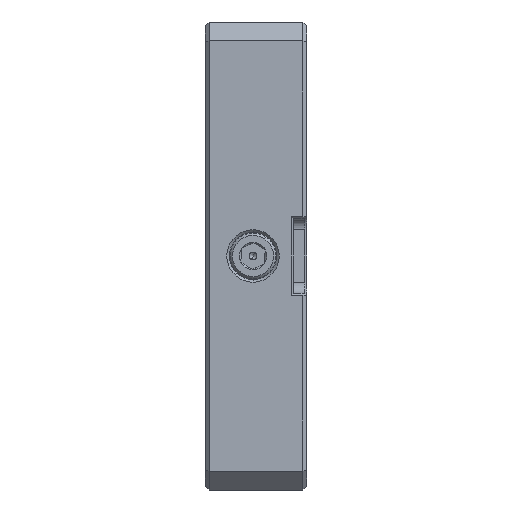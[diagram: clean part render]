
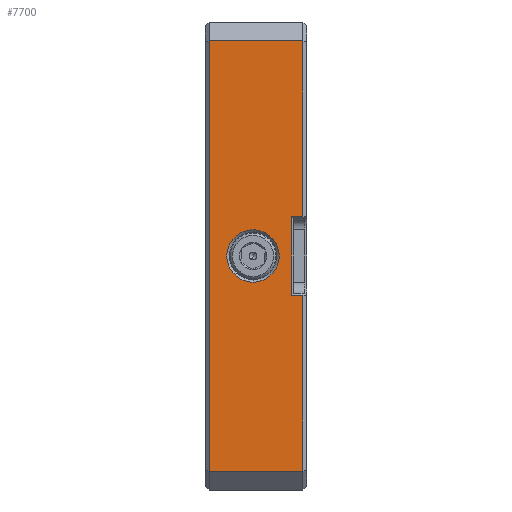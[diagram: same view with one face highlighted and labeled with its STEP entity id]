
A CAD part, left-side view. The second image highlights one B-rep face of the part: STEP entity #7700.
In plain terms, the highlighted planar face has unit normal (-1, 0, 0).
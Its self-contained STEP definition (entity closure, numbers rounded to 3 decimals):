
#897=DIRECTION('',(0.,0.,-1.));
#898=VECTOR('',#897,47.);
#899=CARTESIAN_POINT('',(-62.5,1.,57.5));
#900=LINE('',#899,#898);
#905=CARTESIAN_POINT('',(-62.5,14.3,0.));
#906=DIRECTION('',(1.,0.,0.));
#907=DIRECTION('',(0.,0.,1.));
#908=AXIS2_PLACEMENT_3D('',#905,#906,#907);
#910=CARTESIAN_POINT('',(-62.5,14.3,0.));
#911=DIRECTION('',(1.,0.,0.));
#912=DIRECTION('',(0.,0.,-1.));
#913=AXIS2_PLACEMENT_3D('',#910,#911,#912);
#915=DIRECTION('',(0.,0.,-1.));
#916=VECTOR('',#915,21.);
#917=CARTESIAN_POINT('',(-62.5,4.,10.5));
#918=LINE('',#917,#916);
#927=DIRECTION('',(0.,-1.,0.));
#928=VECTOR('',#927,3.);
#929=CARTESIAN_POINT('',(-62.5,4.,-10.5));
#930=LINE('',#929,#928);
#1055=DIRECTION('',(0.,1.,0.));
#1056=VECTOR('',#1055,3.);
#1057=CARTESIAN_POINT('',(-62.5,1.,10.5));
#1058=LINE('',#1057,#1056);
#1075=DIRECTION('',(0.,0.,-1.));
#1076=VECTOR('',#1075,47.);
#1077=CARTESIAN_POINT('',(-62.5,1.,-10.5));
#1078=LINE('',#1077,#1076);
#1307=DIRECTION('',(0.,0.,1.));
#1308=VECTOR('',#1307,115.);
#1309=CARTESIAN_POINT('',(-62.5,26.,-57.5));
#1310=LINE('',#1309,#1308);
#1311=DIRECTION('',(0.,-1.,0.));
#1312=VECTOR('',#1311,25.);
#1313=CARTESIAN_POINT('',(-62.5,26.,57.5));
#1314=LINE('',#1313,#1312);
#5865=DIRECTION('',(0.,1.,0.));
#5866=VECTOR('',#5865,25.);
#5867=CARTESIAN_POINT('',(-62.5,1.,-57.5));
#5868=LINE('',#5867,#5866);
#6541=CARTESIAN_POINT('',(-62.5,26.,-57.5));
#6543=VERTEX_POINT('',#6541);
#6747=CARTESIAN_POINT('',(-62.5,1.,-10.5));
#6749=VERTEX_POINT('',#6747);
#6879=CARTESIAN_POINT('',(-62.5,1.,57.5));
#6880=CARTESIAN_POINT('',(-62.5,1.,10.5));
#6881=VERTEX_POINT('',#6879);
#6882=VERTEX_POINT('',#6880);
#6914=CARTESIAN_POINT('',(-62.5,4.,-10.5));
#6915=VERTEX_POINT('',#6914);
#6916=CARTESIAN_POINT('',(-62.5,14.3,-7.));
#6917=VERTEX_POINT('',#6916);
#7046=CARTESIAN_POINT('',(-62.5,26.,57.5));
#7047=VERTEX_POINT('',#7046);
#7157=CARTESIAN_POINT('',(-62.5,1.,-57.5));
#7159=VERTEX_POINT('',#7157);
#7227=CARTESIAN_POINT('',(-62.5,4.,10.5));
#7228=VERTEX_POINT('',#7227);
#7245=CARTESIAN_POINT('',(-62.5,14.3,7.));
#7246=VERTEX_POINT('',#7245);
#7672=CARTESIAN_POINT('',(-62.5,27.,62.5));
#7673=DIRECTION('',(1.,0.,0.));
#7674=DIRECTION('',(0.,0.,-1.));
#7675=AXIS2_PLACEMENT_3D('',#7672,#7673,#7674);
#7676=PLANE('',#7675);
#7678=ORIENTED_EDGE('',*,*,#7677,.T.);
#7680=ORIENTED_EDGE('',*,*,#7679,.T.);
#7682=ORIENTED_EDGE('',*,*,#7681,.T.);
#7684=ORIENTED_EDGE('',*,*,#7683,.T.);
#7686=ORIENTED_EDGE('',*,*,#7685,.T.);
#7688=ORIENTED_EDGE('',*,*,#7687,.T.);
#7689=ORIENTED_EDGE('',*,*,#7663,.T.);
#7691=ORIENTED_EDGE('',*,*,#7690,.T.);
#7692=EDGE_LOOP('',(#7678,#7680,#7682,#7684,#7686,#7688,#7689,#7691));
#7693=FACE_OUTER_BOUND('',#7692,.F.);
#7695=ORIENTED_EDGE('',*,*,#7694,.F.);
#7697=ORIENTED_EDGE('',*,*,#7696,.F.);
#7698=EDGE_LOOP('',(#7695,#7697));
#7699=FACE_BOUND('',#7698,.F.);
#7700=ADVANCED_FACE('',(#7693,#7699),#7676,.F.);
#909=CIRCLE('',#908,7.);
#914=CIRCLE('',#913,7.);
#7663=EDGE_CURVE('',#6881,#6882,#900,.T.);
#7677=EDGE_CURVE('',#7228,#6915,#918,.T.);
#7679=EDGE_CURVE('',#6915,#6749,#930,.T.);
#7681=EDGE_CURVE('',#6749,#7159,#1078,.T.);
#7683=EDGE_CURVE('',#7159,#6543,#5868,.T.);
#7685=EDGE_CURVE('',#6543,#7047,#1310,.T.);
#7687=EDGE_CURVE('',#7047,#6881,#1314,.T.);
#7690=EDGE_CURVE('',#6882,#7228,#1058,.T.);
#7694=EDGE_CURVE('',#7246,#6917,#909,.T.);
#7696=EDGE_CURVE('',#6917,#7246,#914,.T.);
